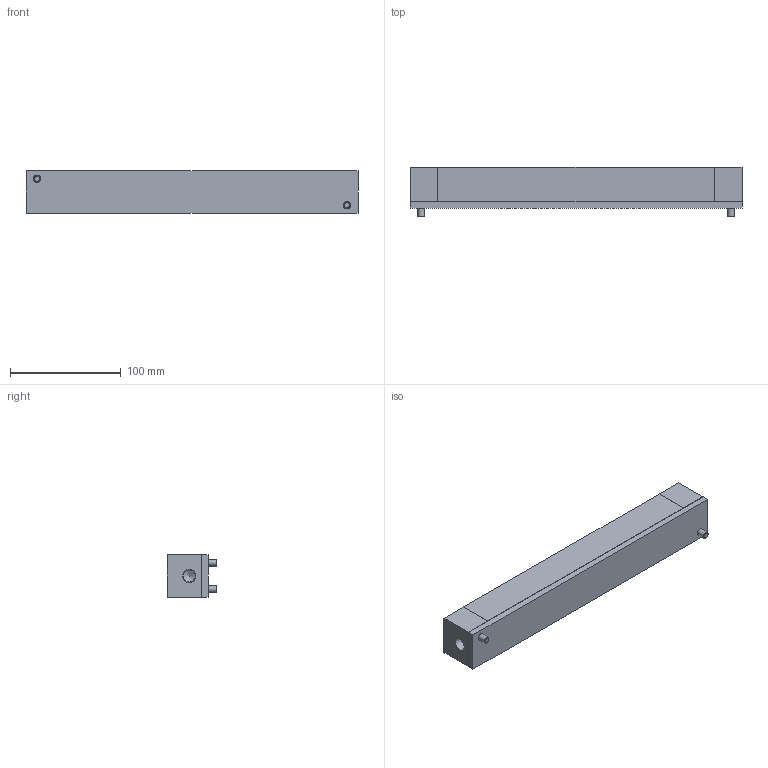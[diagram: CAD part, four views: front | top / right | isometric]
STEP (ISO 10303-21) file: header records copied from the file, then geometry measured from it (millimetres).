
FILE_DESCRIPTION( ( 'STEP AP214' ), '1' );
FILE_NAME( 'Z:/01-DesignData/標準品図面/★Web／カタログ用データ(型式別 3点Set)/067-ISR38 系/ISR38-300-A_0_.stp', '2022-05-10T00:06:34', ( 'License CC BY-ND 4.0' ), ( 'CADENAS' ), ' ', 'PARTsolutions', ' ' );
FILE_SCHEMA( ( 'AUTOMOTIVE_DESIGN { 1 0 10303 214 1 1 1 1 }' ) );
Length unit declared in the file: millimetre
Products named in the file (5): ISR38-300-A(0); _ISR38-300-A-Body; _ISR38-300-A-Box; _ISR38-300-A(0)-Ball; _ISR38-300-A-screw
Assembly tree (9 placements, depth 2):
  ISR38-300-A(0)
    _ISR38-300-A-Body
    _ISR38-300-A-Box
    _ISR38-300-A(0)-Ball  x5
    _ISR38-300-A-screw  x2
Bounding box: 300 x 45 x 38 mm (x, y, z)
Volume: 397154.5 mm3; surface area: 119959.7 mm2
Topology: 9 solids, 9 shells, 371 faces, 784 edges, 484 vertices
Faces by surface type: plane 267, cylinder 57, cone 28, torus 14, sphere 5
Full cylindrical faces by diameter (mm): 6 x2, 6.5 x2, 7 x2, 8 x2, 8.5 x10, 9.5 x10, 10 x2, 11 x2, 25.7 x5, 31.5 x5, 32 x5, 35 x10
Entity records: 10248 total; most frequent: DIRECTION 1382, CARTESIAN_POINT 1276, ORIENTED_EDGE 1128, EDGE_CURVE 564, AXIS2_PLACEMENT_3D 501, EDGE_LOOP 426, VERTEX_POINT 395, LINE 380
